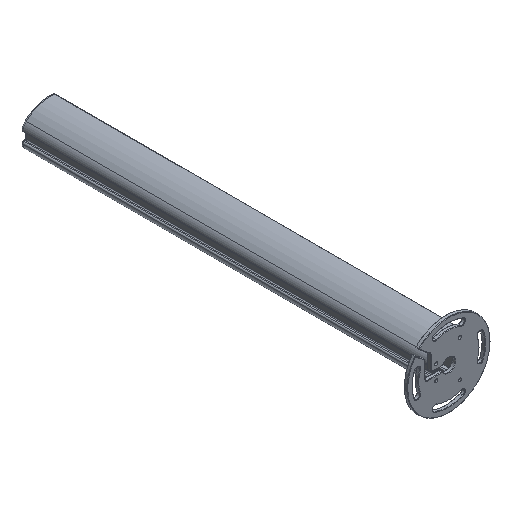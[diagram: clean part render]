
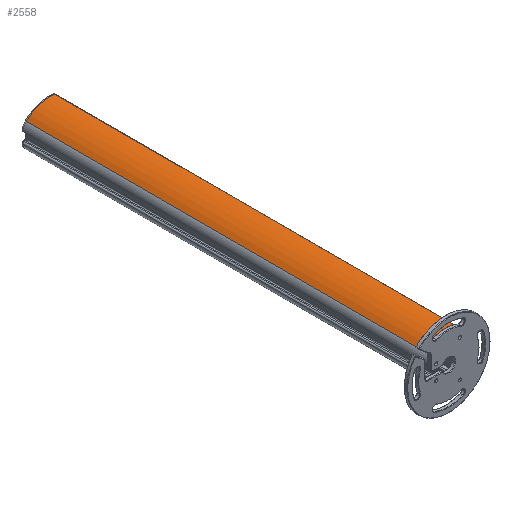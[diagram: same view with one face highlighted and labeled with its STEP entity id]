
A CAD part, isometric view. The second image highlights one B-rep face of the part: STEP entity #2558.
In plain terms, the highlighted cylindrical face has radius 79.059 mm (diameter 158.118 mm), a partial arc.
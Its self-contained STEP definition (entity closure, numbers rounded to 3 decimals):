
#72=CARTESIAN_POINT('',(24.886,-465.,-29.268));
#73=DIRECTION('',(0.,1.,0.));
#74=DIRECTION('',(-0.694,0.,0.72));
#75=AXIS2_PLACEMENT_3D('',#72,#73,#74);
#646=DIRECTION('',(0.,1.,0.));
#647=VECTOR('',#646,930.);
#648=CARTESIAN_POINT('',(35.448,-465.,49.083));
#649=LINE('',#648,#647);
#650=DIRECTION('',(0.,1.,0.));
#651=VECTOR('',#650,930.);
#652=CARTESIAN_POINT('',(-30.018,-465.,27.617));
#653=LINE('',#652,#651);
#1015=CARTESIAN_POINT('',(24.886,465.,-29.268));
#1016=DIRECTION('',(0.,1.,0.));
#1017=DIRECTION('',(-0.694,0.,0.72));
#1018=AXIS2_PLACEMENT_3D('',#1015,#1016,#1017);
#1116=CARTESIAN_POINT('',(-30.018,-465.,27.617));
#1117=VERTEX_POINT('',#1116);
#1118=CARTESIAN_POINT('',(35.448,-465.,49.083));
#1119=VERTEX_POINT('',#1118);
#1282=CARTESIAN_POINT('',(-30.018,465.,27.617));
#1283=VERTEX_POINT('',#1282);
#1284=CARTESIAN_POINT('',(35.448,465.,49.083));
#1285=VERTEX_POINT('',#1284);
#2545=CARTESIAN_POINT('',(24.886,-465.,-29.268));
#2546=DIRECTION('',(0.,1.,0.));
#2547=DIRECTION('',(1.,0.,0.));
#2548=AXIS2_PLACEMENT_3D('',#2545,#2546,#2547);
#2549=CYLINDRICAL_SURFACE('',#2548,79.059);
#2550=ORIENTED_EDGE('',*,*,#1453,.F.);
#2552=ORIENTED_EDGE('',*,*,#2551,.T.);
#2554=ORIENTED_EDGE('',*,*,#2553,.T.);
#2555=ORIENTED_EDGE('',*,*,#2537,.F.);
#2556=EDGE_LOOP('',(#2550,#2552,#2554,#2555));
#2557=FACE_OUTER_BOUND('',#2556,.F.);
#2558=ADVANCED_FACE('',(#2557),#2549,.T.);
#76=CIRCLE('',#75,79.059);
#1019=CIRCLE('',#1018,79.059);
#1453=EDGE_CURVE('',#1117,#1119,#76,.T.);
#2537=EDGE_CURVE('',#1119,#1285,#649,.T.);
#2551=EDGE_CURVE('',#1117,#1283,#653,.T.);
#2553=EDGE_CURVE('',#1283,#1285,#1019,.T.);
